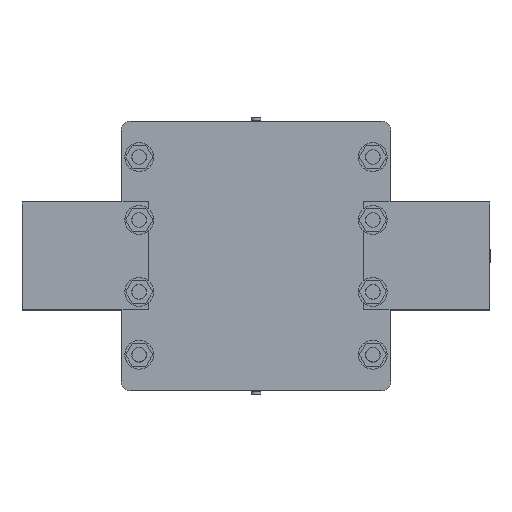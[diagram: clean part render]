
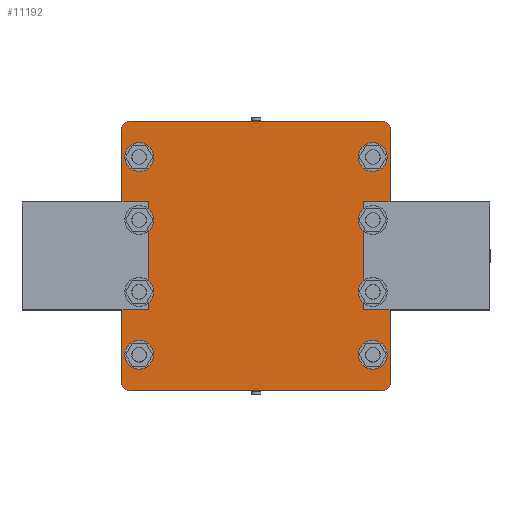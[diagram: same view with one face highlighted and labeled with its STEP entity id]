
A CAD part, top view. The second image highlights one B-rep face of the part: STEP entity #11192.
In plain terms, the highlighted planar face has unit normal (0, 0, 1).
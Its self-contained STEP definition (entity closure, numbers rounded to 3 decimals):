
#10932 = VERTEX_POINT('',#10933);
#10933 = CARTESIAN_POINT('',(-70.,-75.,12.));
#10939 = EDGE_CURVE('',#10932,#10940,#10942,.T.);
#10940 = VERTEX_POINT('',#10941);
#10941 = CARTESIAN_POINT('',(70.,-75.,12.));
#10942 = LINE('',#10943,#10944);
#10943 = CARTESIAN_POINT('',(-70.,-75.,12.));
#10944 = VECTOR('',#10945,1.);
#10945 = DIRECTION('',(1.,0.,0.));
#10972 = VERTEX_POINT('',#10973);
#10973 = CARTESIAN_POINT('',(-75.,-70.,12.));
#10979 = EDGE_CURVE('',#10972,#10932,#10980,.T.);
#10980 = CIRCLE('',#10981,5.);
#10981 = AXIS2_PLACEMENT_3D('',#10982,#10983,#10984);
#10982 = CARTESIAN_POINT('',(-70.,-70.,12.));
#10983 = DIRECTION('',(0.,0.,1.));
#10984 = DIRECTION('',(1.,0.,0.));
#11003 = EDGE_CURVE('',#10940,#11004,#11006,.T.);
#11004 = VERTEX_POINT('',#11005);
#11005 = CARTESIAN_POINT('',(75.,-70.,12.));
#11006 = CIRCLE('',#11007,5.);
#11007 = AXIS2_PLACEMENT_3D('',#11008,#11009,#11010);
#11008 = CARTESIAN_POINT('',(70.,-70.,12.));
#11009 = DIRECTION('',(0.,0.,1.));
#11010 = DIRECTION('',(1.,0.,0.));
#11192 = ADVANCED_FACE('',(#11193,#11238,#11249,#11260,#11271,#11282,
    #11293,#11304,#11315),#11326,.T.);
#11193 = FACE_BOUND('',#11194,.T.);
#11194 = EDGE_LOOP('',(#11195,#11196,#11197,#11205,#11214,#11222,#11231,
    #11237));
#11195 = ORIENTED_EDGE('',*,*,#10939,.T.);
#11196 = ORIENTED_EDGE('',*,*,#11003,.T.);
#11197 = ORIENTED_EDGE('',*,*,#11198,.T.);
#11198 = EDGE_CURVE('',#11004,#11199,#11201,.T.);
#11199 = VERTEX_POINT('',#11200);
#11200 = CARTESIAN_POINT('',(75.,70.,12.));
#11201 = LINE('',#11202,#11203);
#11202 = CARTESIAN_POINT('',(75.,-70.,12.));
#11203 = VECTOR('',#11204,1.);
#11204 = DIRECTION('',(0.,1.,0.));
#11205 = ORIENTED_EDGE('',*,*,#11206,.T.);
#11206 = EDGE_CURVE('',#11199,#11207,#11209,.T.);
#11207 = VERTEX_POINT('',#11208);
#11208 = CARTESIAN_POINT('',(70.,75.,12.));
#11209 = CIRCLE('',#11210,5.);
#11210 = AXIS2_PLACEMENT_3D('',#11211,#11212,#11213);
#11211 = CARTESIAN_POINT('',(70.,70.,12.));
#11212 = DIRECTION('',(0.,0.,1.));
#11213 = DIRECTION('',(1.,0.,0.));
#11214 = ORIENTED_EDGE('',*,*,#11215,.T.);
#11215 = EDGE_CURVE('',#11207,#11216,#11218,.T.);
#11216 = VERTEX_POINT('',#11217);
#11217 = CARTESIAN_POINT('',(-70.,75.,12.));
#11218 = LINE('',#11219,#11220);
#11219 = CARTESIAN_POINT('',(70.,75.,12.));
#11220 = VECTOR('',#11221,1.);
#11221 = DIRECTION('',(-1.,0.,0.));
#11222 = ORIENTED_EDGE('',*,*,#11223,.T.);
#11223 = EDGE_CURVE('',#11216,#11224,#11226,.T.);
#11224 = VERTEX_POINT('',#11225);
#11225 = CARTESIAN_POINT('',(-75.,70.,12.));
#11226 = CIRCLE('',#11227,5.);
#11227 = AXIS2_PLACEMENT_3D('',#11228,#11229,#11230);
#11228 = CARTESIAN_POINT('',(-70.,70.,12.));
#11229 = DIRECTION('',(0.,0.,1.));
#11230 = DIRECTION('',(1.,0.,0.));
#11231 = ORIENTED_EDGE('',*,*,#11232,.T.);
#11232 = EDGE_CURVE('',#11224,#10972,#11233,.T.);
#11233 = LINE('',#11234,#11235);
#11234 = CARTESIAN_POINT('',(-75.,70.,12.));
#11235 = VECTOR('',#11236,1.);
#11236 = DIRECTION('',(0.,-1.,0.));
#11237 = ORIENTED_EDGE('',*,*,#10979,.T.);
#11238 = FACE_BOUND('',#11239,.T.);
#11239 = EDGE_LOOP('',(#11240));
#11240 = ORIENTED_EDGE('',*,*,#11241,.F.);
#11241 = EDGE_CURVE('',#11242,#11242,#11244,.T.);
#11242 = VERTEX_POINT('',#11243);
#11243 = CARTESIAN_POINT('',(-60.5,-55.,12.));
#11244 = CIRCLE('',#11245,4.5);
#11245 = AXIS2_PLACEMENT_3D('',#11246,#11247,#11248);
#11246 = CARTESIAN_POINT('',(-65.,-55.,12.));
#11247 = DIRECTION('',(0.,0.,1.));
#11248 = DIRECTION('',(1.,0.,0.));
#11249 = FACE_BOUND('',#11250,.T.);
#11250 = EDGE_LOOP('',(#11251));
#11251 = ORIENTED_EDGE('',*,*,#11252,.F.);
#11252 = EDGE_CURVE('',#11253,#11253,#11255,.T.);
#11253 = VERTEX_POINT('',#11254);
#11254 = CARTESIAN_POINT('',(-60.5,-20.,12.));
#11255 = CIRCLE('',#11256,4.5);
#11256 = AXIS2_PLACEMENT_3D('',#11257,#11258,#11259);
#11257 = CARTESIAN_POINT('',(-65.,-20.,12.));
#11258 = DIRECTION('',(0.,0.,1.));
#11259 = DIRECTION('',(1.,0.,0.));
#11260 = FACE_BOUND('',#11261,.T.);
#11261 = EDGE_LOOP('',(#11262));
#11262 = ORIENTED_EDGE('',*,*,#11263,.F.);
#11263 = EDGE_CURVE('',#11264,#11264,#11266,.T.);
#11264 = VERTEX_POINT('',#11265);
#11265 = CARTESIAN_POINT('',(69.5,-55.,12.));
#11266 = CIRCLE('',#11267,4.5);
#11267 = AXIS2_PLACEMENT_3D('',#11268,#11269,#11270);
#11268 = CARTESIAN_POINT('',(65.,-55.,12.));
#11269 = DIRECTION('',(0.,0.,1.));
#11270 = DIRECTION('',(1.,0.,0.));
#11271 = FACE_BOUND('',#11272,.T.);
#11272 = EDGE_LOOP('',(#11273));
#11273 = ORIENTED_EDGE('',*,*,#11274,.F.);
#11274 = EDGE_CURVE('',#11275,#11275,#11277,.T.);
#11275 = VERTEX_POINT('',#11276);
#11276 = CARTESIAN_POINT('',(69.5,-20.,12.));
#11277 = CIRCLE('',#11278,4.5);
#11278 = AXIS2_PLACEMENT_3D('',#11279,#11280,#11281);
#11279 = CARTESIAN_POINT('',(65.,-20.,12.));
#11280 = DIRECTION('',(0.,0.,1.));
#11281 = DIRECTION('',(1.,0.,0.));
#11282 = FACE_BOUND('',#11283,.T.);
#11283 = EDGE_LOOP('',(#11284));
#11284 = ORIENTED_EDGE('',*,*,#11285,.F.);
#11285 = EDGE_CURVE('',#11286,#11286,#11288,.T.);
#11286 = VERTEX_POINT('',#11287);
#11287 = CARTESIAN_POINT('',(-60.5,20.,12.));
#11288 = CIRCLE('',#11289,4.5);
#11289 = AXIS2_PLACEMENT_3D('',#11290,#11291,#11292);
#11290 = CARTESIAN_POINT('',(-65.,20.,12.));
#11291 = DIRECTION('',(0.,0.,1.));
#11292 = DIRECTION('',(1.,0.,0.));
#11293 = FACE_BOUND('',#11294,.T.);
#11294 = EDGE_LOOP('',(#11295));
#11295 = ORIENTED_EDGE('',*,*,#11296,.F.);
#11296 = EDGE_CURVE('',#11297,#11297,#11299,.T.);
#11297 = VERTEX_POINT('',#11298);
#11298 = CARTESIAN_POINT('',(-60.5,55.,12.));
#11299 = CIRCLE('',#11300,4.5);
#11300 = AXIS2_PLACEMENT_3D('',#11301,#11302,#11303);
#11301 = CARTESIAN_POINT('',(-65.,55.,12.));
#11302 = DIRECTION('',(0.,0.,1.));
#11303 = DIRECTION('',(1.,0.,0.));
#11304 = FACE_BOUND('',#11305,.T.);
#11305 = EDGE_LOOP('',(#11306));
#11306 = ORIENTED_EDGE('',*,*,#11307,.F.);
#11307 = EDGE_CURVE('',#11308,#11308,#11310,.T.);
#11308 = VERTEX_POINT('',#11309);
#11309 = CARTESIAN_POINT('',(69.5,20.,12.));
#11310 = CIRCLE('',#11311,4.5);
#11311 = AXIS2_PLACEMENT_3D('',#11312,#11313,#11314);
#11312 = CARTESIAN_POINT('',(65.,20.,12.));
#11313 = DIRECTION('',(0.,0.,1.));
#11314 = DIRECTION('',(1.,0.,0.));
#11315 = FACE_BOUND('',#11316,.T.);
#11316 = EDGE_LOOP('',(#11317));
#11317 = ORIENTED_EDGE('',*,*,#11318,.F.);
#11318 = EDGE_CURVE('',#11319,#11319,#11321,.T.);
#11319 = VERTEX_POINT('',#11320);
#11320 = CARTESIAN_POINT('',(69.5,55.,12.));
#11321 = CIRCLE('',#11322,4.5);
#11322 = AXIS2_PLACEMENT_3D('',#11323,#11324,#11325);
#11323 = CARTESIAN_POINT('',(65.,55.,12.));
#11324 = DIRECTION('',(0.,0.,1.));
#11325 = DIRECTION('',(1.,0.,0.));
#11326 = PLANE('',#11327);
#11327 = AXIS2_PLACEMENT_3D('',#11328,#11329,#11330);
#11328 = CARTESIAN_POINT('',(0.,0.,12.));
#11329 = DIRECTION('',(0.,0.,1.));
#11330 = DIRECTION('',(1.,0.,0.));
